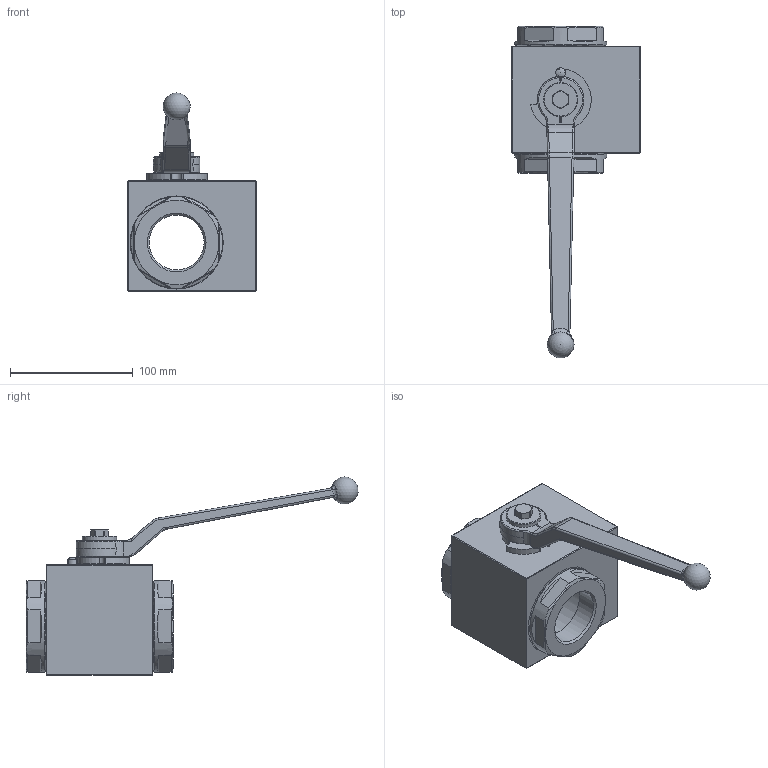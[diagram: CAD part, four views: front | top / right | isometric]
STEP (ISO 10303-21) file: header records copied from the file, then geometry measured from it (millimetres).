
FILE_DESCRIPTION( ( 'Unknown' ), '1' );
FILE_NAME( 'H:/PISTER/3D-MODELLE/BK3-Edelstahl stp/BK3-Edelst DN40 G3_2.stp', 'Unknown', ( 'Unknown' ), ( 'Unknown' ), 'PSStep 14.0', 'Unknown', ' ' );
FILE_SCHEMA( ( 'AUTOMOTIVE_DESIGN { 1 0 10303 214 1 1 1 1 }' ) );
Length unit declared in the file: millimetre
Products named in the file (10): Assem1; 56-032-171-oa2; 09-17-002; 58-1473-020-oa3; 58-0440-008; 03-040-001-oa4; 04-040-001-oa5; 56-032-048-oa12; Griff_SW17_; 01-040-205-oa13
Assembly tree (9 placements, depth 2):
  Assem1
    56-032-171-oa2
    09-17-002
    58-1473-020-oa3
    58-0440-008
    03-040-001-oa4
    04-040-001-oa5
    56-032-048-oa12
    Griff_SW17_
    01-040-205-oa13
Bounding box: 105 x 270.92 x 161.6 mm (x, y, z)
Volume: 592480.1 mm3; surface area: 116552.5 mm2
Topology: 9 solids, 9 shells, 327 faces, 847 edges, 535 vertices
Faces by surface type: plane 140, cylinder 89, cone 42, bspline 30, torus 23, sphere 3
Full cylindrical faces by diameter (mm): 6.647 x1, 7.98 x1, 8 x1, 9.2 x1, 24 x2, 28 x1, 32 x1, 36 x1, 40 x1, 44.845 x2, 44.86 x1, 65.2 x2, 68 x1, 70 x2, 75 x2, 76 x3
Entity records: 14520 total; most frequent: CARTESIAN_POINT 4299, ORIENTED_EDGE 1530, DIRECTION 1516, EDGE_CURVE 765, AXIS2_PLACEMENT_3D 600, VERTEX_POINT 511, EDGE_LOOP 398, FACE_OUTER_BOUND 357
